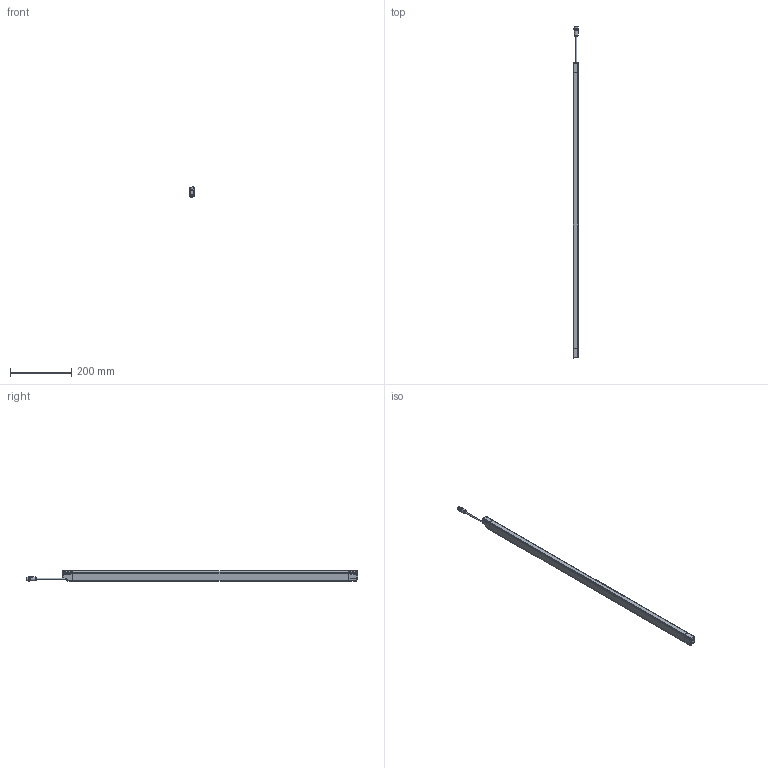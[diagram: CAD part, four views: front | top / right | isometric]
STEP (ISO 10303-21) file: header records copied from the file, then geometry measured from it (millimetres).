
FILE_DESCRIPTION(/* description */ (''),/* implementation_level */ '2;1');
FILE_NAME(/* name */ 'DSD-0647_SLx-xx-0960 _stp.stp',/* time_stamp */ '2017-12-05T14:34:19+01:00',/* author */ ('CC2'),/* organization */ ('Leuze electronic'),/* preprocessor_version */ 'ST-DEVELOPER v16',/* originating_system */ 'SIEMENS PLM Software NX 11.0',/* authorisation */ '');
FILE_SCHEMA (('AUTOMOTIVE_DESIGN { 1 0 10303 214 3 1 1 1 }'));
Length unit declared in the file: millimetre
Products named in the file (1): DSD-0647_SLx-xx-0960 _stp
Bounding box: 17.36 x 1080.24 x 33.46 mm (x, y, z)
Surface area: 115267 mm2 (no closed solid volume)
Topology: 0 solids, 704 shells, 1033 faces, 5009 edges, 4612 vertices
Faces by surface type: cylinder 386, plane 294, bspline 138, torus 108, sphere 65, cone 42
Full cylindrical faces by diameter (mm): 1 x5, 1.2 x2, 2.6 x6, 4 x1, 8.3 x1, 9.4 x1, 10.4 x1, 12 x1, 13 x1, 13.5 x1, 14.5 x2
Entity records: 69784 total; most frequent: CARTESIAN_POINT 33084, ORIENTED_EDGE 5566, EDGE_CURVE 4874, VERTEX_POINT 4572, DIRECTION 4133, B_SPLINE_CURVE_WITH_KNOTS 2884, AXIS2_PLACEMENT_3D 1649, EDGE_LOOP 1110
